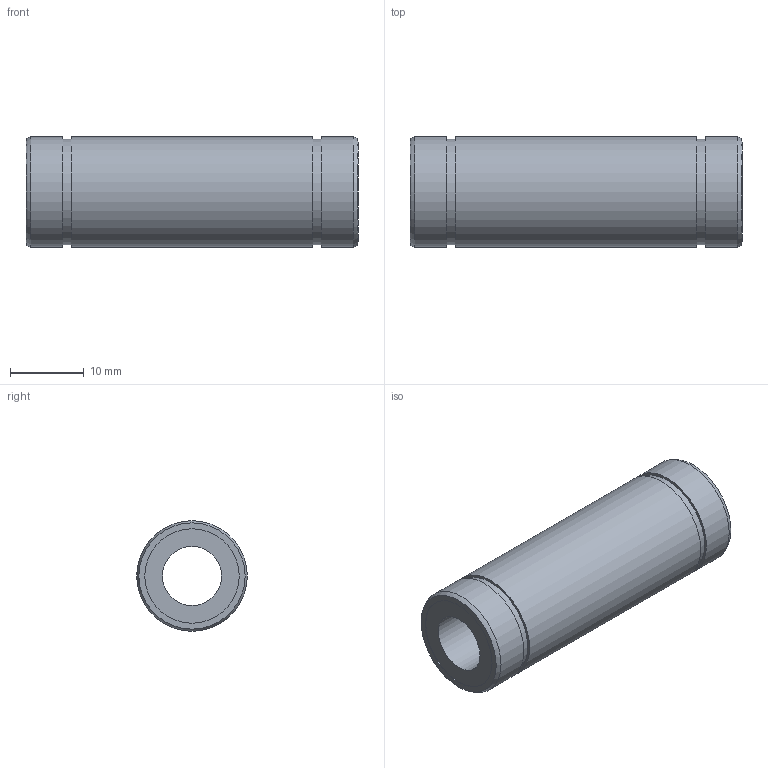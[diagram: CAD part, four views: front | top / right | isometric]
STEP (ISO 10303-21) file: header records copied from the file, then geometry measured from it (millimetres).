
FILE_DESCRIPTION((''),'2;1');
FILE_NAME('D:\製品 (図面)\カタログ用3D\リニアベアリング関連\STEP形式\LD\LD8.stp','2010-06-02T17:39:59',('Tsuchiya'),(''),'Autodesk Inventor 10','Autodesk Inventor 10','');
FILE_SCHEMA(('AUTOMOTIVE_DESIGN { 1 0 10303 214 1 1 1 1 }'));
Length unit declared in the file: millimetre
Products named in the file (1): LD8
Bounding box: 45 x 15 x 15 mm (x, y, z)
Volume: 5631 mm3; surface area: 3544.6 mm2
Topology: 1 solids, 1 shells, 18 faces, 28 edges, 18 vertices
Faces by surface type: plane 8, cylinder 8, torus 2
Full cylindrical faces by diameter (mm): 8 x1, 12.8 x2, 14.3 x2, 15 x3
Entity records: 391 total; most frequent: DIRECTION 74, CARTESIAN_POINT 55, AXIS2_PLACEMENT_3D 37, ORIENTED_EDGE 36, EDGE_LOOP 36, VERTEX_POINT 18, CIRCLE 18, EDGE_CURVE 18
